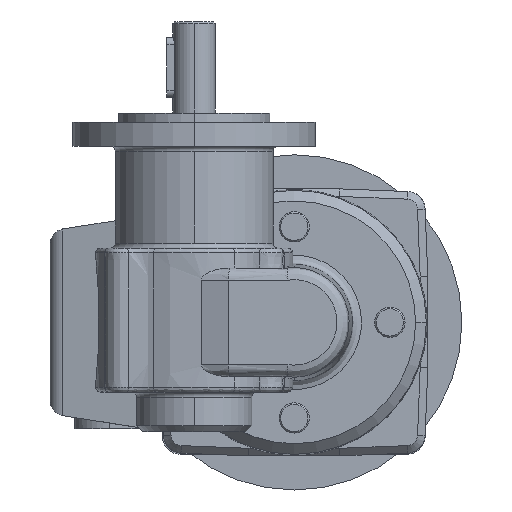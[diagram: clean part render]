
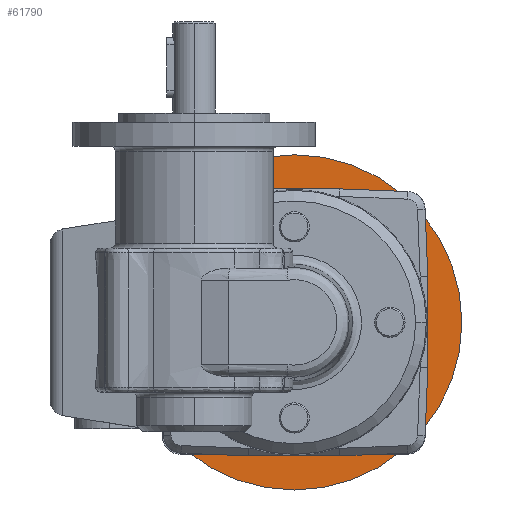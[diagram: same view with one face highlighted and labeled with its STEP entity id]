
A CAD part, left-side view. The second image highlights one B-rep face of the part: STEP entity #61790.
In plain terms, the highlighted planar face has unit normal (-1, 0, 0).
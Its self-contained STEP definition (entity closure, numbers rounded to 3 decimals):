
#42840=CARTESIAN_POINT('',(-52.458,-286.495,
-10.233));
#42850=VERTEX_POINT('',#42840);
#43010=CARTESIAN_POINT('',(-52.458,-286.495,
100.267));
#43020=VERTEX_POINT('',#43010);
#43050=CARTESIAN_POINT('',(-52.458,-286.495,
45.017));
#43060=DIRECTION('',(-1.,0.,0.));
#43070=DIRECTION('',(0.,0.,-1.));
#43080=AXIS2_PLACEMENT_3D('',#43050,#43060,#43070);
#43090=CIRCLE('',#43080,55.25);
#43100=EDGE_CURVE('',#43020,#42850,#43090,.T.);
#61540=CARTESIAN_POINT('',(-52.458,-314.514,
21.235));
#61550=DIRECTION('',(-1.,0.,0.));
#61560=DIRECTION('',(0.,1.,0.));
#61570=AXIS2_PLACEMENT_3D('',#61540,#61550,#61560);
#61580=PLANE('',#61570);
#61590=EDGE_CURVE('',#42850,#43020,#43090,.T.);
#61600=ORIENTED_EDGE('',*,*,#61590,.T.);
#61610=ORIENTED_EDGE('',*,*,#43100,.T.);
#61620=EDGE_LOOP('',(#61610,#61600));
#61630=FACE_OUTER_BOUND('',#61620,.T.);
#61640=CARTESIAN_POINT('',(-52.458,-286.731,
45.253));
#61650=DIRECTION('',(1.,0.,0.));
#61660=DIRECTION('',(0.,0.,-1.));
#61670=AXIS2_PLACEMENT_3D('',#61640,#61650,#61660);
#61680=CIRCLE('',#61670,40.);
#61690=CARTESIAN_POINT('',(-52.458,-286.731,
5.253));
#61700=VERTEX_POINT('',#61690);
#61710=CARTESIAN_POINT('',(-52.458,-286.731,
85.253));
#61720=VERTEX_POINT('',#61710);
#61730=EDGE_CURVE('',#61700,#61720,#61680,.T.);
#61740=ORIENTED_EDGE('',*,*,#61730,.T.);
#61750=EDGE_CURVE('',#61720,#61700,#61680,.T.);
#61760=ORIENTED_EDGE('',*,*,#61750,.T.);
#61770=EDGE_LOOP('',(#61760,#61740));
#61780=FACE_BOUND('',#61770,.T.);
#61790=ADVANCED_FACE('',(#61630,#61780),#61580,.T.);
